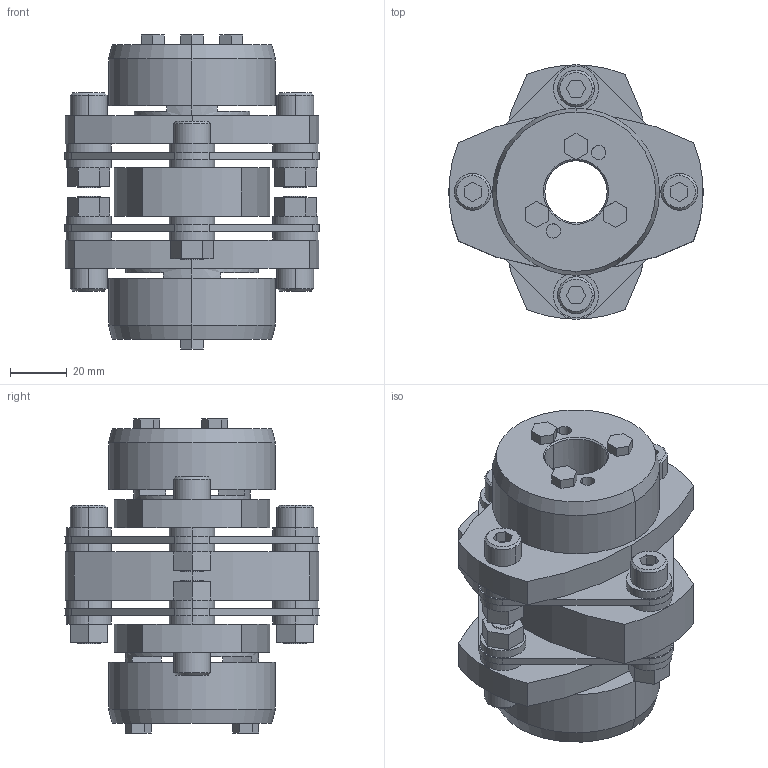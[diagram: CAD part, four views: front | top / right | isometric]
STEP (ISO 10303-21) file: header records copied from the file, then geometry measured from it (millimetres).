
FILE_DESCRIPTION((''),'2;1');
FILE_NAME('LCD-90T7-22×25.stp','2011-09-12T08:33:34',(''),(''),'AutoCAD STEP 2000i','AutoCAD 2000i',', , ');
FILE_SCHEMA(('CONFIG_CONTROL_DESIGN'));
Length unit declared in the file: millimetre
Products named in the file (6): LCD-90T7-19×25; 忣兜1; LC90T7-T025; LC90T7-T019-1; LC90T7-T019; LCD90-ITA
Assembly tree (5 placements, depth 2):
  LCD-90T7-19×25
    忣兜1
    LC90T7-T025
    LC90T7-T019-1
    LC90T7-T019
    LCD90-ITA
Bounding box: 90 x 89.94 x 111 mm (x, y, z)
Volume: 269354.4 mm3; surface area: 73547.5 mm2
Topology: 1 solids, 1 shells, 316 faces, 774 edges, 506 vertices
Faces by surface type: plane 172, cylinder 120, cone 24
Entity records: 9561 total; most frequent: DIRECTION 1704, CARTESIAN_POINT 1602, ORIENTED_EDGE 1548, EDGE_CURVE 774, AXIS2_PLACEMENT_3D 608, VERTEX_POINT 506, VECTOR 488, LINE 488
